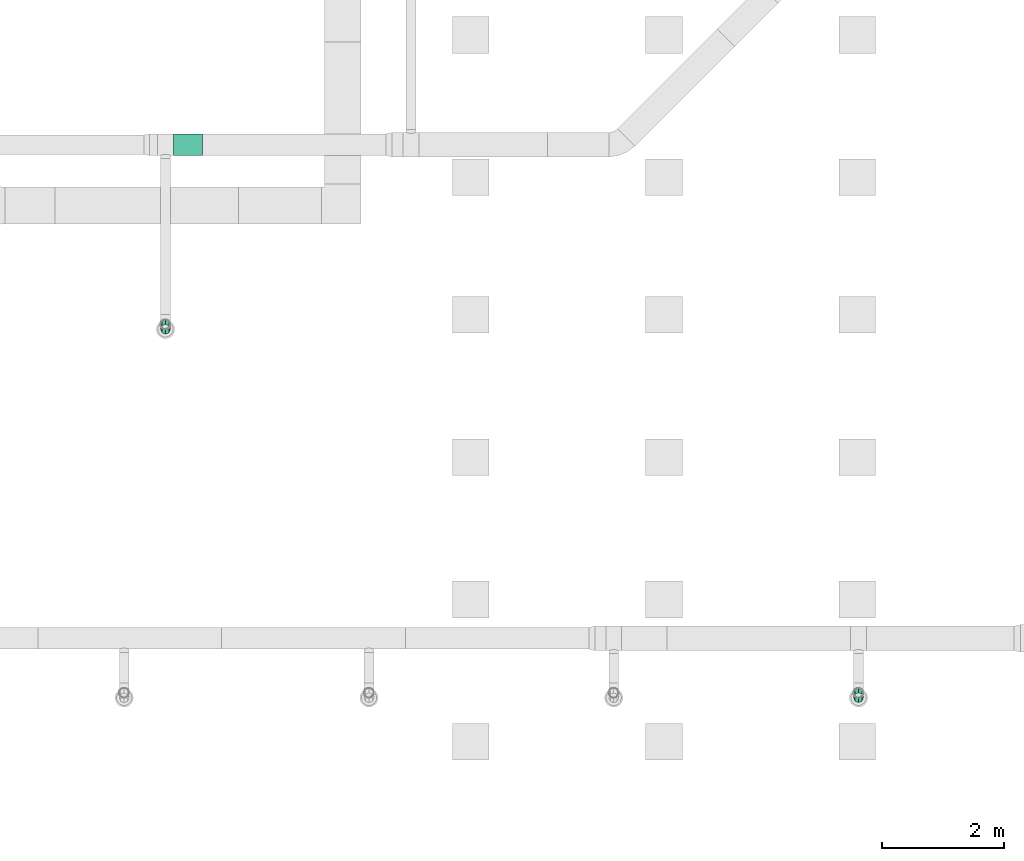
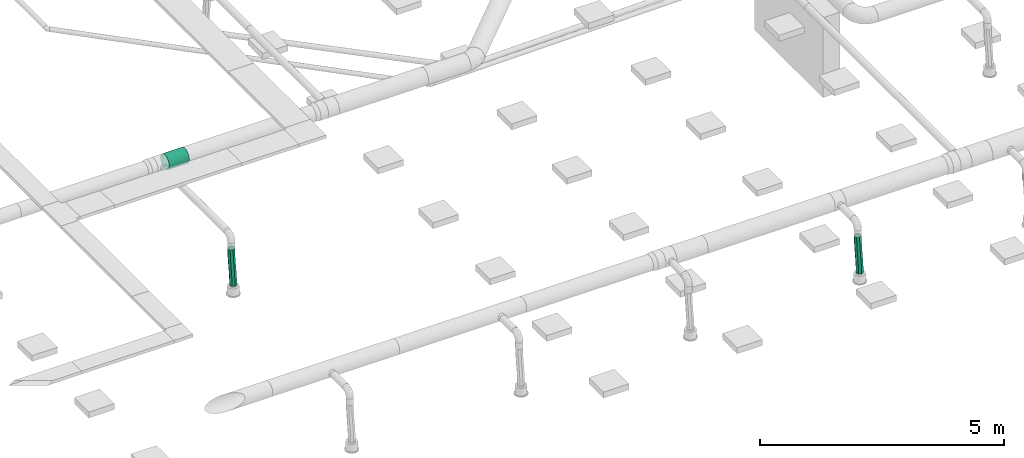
# One storey, part 246 of 374: 3 flow segments.
"""IFC2X3 building model written with IfcOpenShell, lengths in metres."""

import ifcopenshell
import ifcopenshell.guid

model = None  # the IFC model being written
_history = None  # IfcOwnerHistory: only IFC2X3 demands one
_inside = {}  # id of a spatial element -> (the spatial element, [elements in it])
_under = {}  # id of a project, library or spatial element -> (it, [spatial elements below it])
_declared = {}  # id of a project -> (the project, [libraries it declares])
_typed = {}  # id of a type object -> (the type object, [elements of that type])
_made_of = {}  # id of a material, layer set ... -> (it, [elements and type objects made of it])


def new_model(schema):
    """Start an empty IFC model of exactly this schema.

    Asked for "IFC4X3", IfcOpenShell would pick the latest addendum, in which some entities
    have other attributes; the version numbers below select the first issue.
    IFC2X3 requires an IfcOwnerHistory on every rooted entity: one is made here for all.
    """
    global model, _history
    if schema == "IFC4X3":
        model = ifcopenshell.file(schema_version=(4, 3, 0, 0))
    else:
        model = ifcopenshell.file(schema=schema)
    _inside.clear()
    _under.clear()
    _declared.clear()
    _typed.clear()
    _made_of.clear()
    _history = None
    if model.schema == "IFC2X3":
        org = make("IfcOrganization", Name="unknown")
        user = make(
            "IfcPersonAndOrganization",
            ThePerson=make("IfcPerson", FamilyName="unknown"),
            TheOrganization=org,
        )
        app = make(
            "IfcApplication",
            ApplicationDeveloper=org,
            Version="unknown",
            ApplicationFullName="unknown",
            ApplicationIdentifier="unknown",
        )
        _history = make(
            "IfcOwnerHistory",
            OwningUser=user,
            OwningApplication=app,
            ChangeAction="ADDED",
            CreationDate=0,
        )
    return model


def make(cls, **values):
    """One entity of the class cls with the attributes given. An attribute that is None is left unset."""
    return model.create_entity(
        cls, **{name: value for name, value in values.items() if value is not None}
    )


def rooted(cls, **values):
    """An entity with a GlobalId (a new one), such as an element, a storey or a relation."""
    return make(cls, GlobalId=ifcopenshell.guid.new(), OwnerHistory=_history, **values)


def si_unit(unit_type, name, prefix=None):
    """IfcSIUnit, for example si_unit("LENGTHUNIT", "METRE", prefix="MILLI")."""
    return make("IfcSIUnit", UnitType=unit_type, Prefix=prefix, Name=name)


def assignment(units):
    """IfcUnitAssignment: the units of a project."""
    return None if units is None else make("IfcUnitAssignment", Units=units)


def point(xyz):
    """IfcCartesianPoint."""
    return None if xyz is None else make("IfcCartesianPoint", Coordinates=xyz)


def direction(xyz):
    """IfcDirection."""
    return None if xyz is None else make("IfcDirection", DirectionRatios=xyz)


def frame(location, z_axis=None, x_axis=None):
    """IfcAxis2Placement3D, a coordinate frame: its origin and axes. An axis left out is left unset."""
    return make(
        "IfcAxis2Placement3D",
        Location=point(location),
        Axis=direction(z_axis),
        RefDirection=direction(x_axis),
    )


def origin():
    """The frame at (0, 0, 0) with its axes left unset."""
    return frame((0.0, 0.0, 0.0))


def place(relative_to, where):
    """IfcLocalPlacement: puts the frame where relative to a parent placement (None: the world)."""
    return make(
        "IfcLocalPlacement", PlacementRelTo=relative_to, RelativePlacement=where
    )


def context(
    kind, dimensions, precision=None, world=None, true_north=None, identifier=None
):
    """IfcGeometricRepresentationContext, for example the 3D "Model" context."""
    return make(
        "IfcGeometricRepresentationContext",
        ContextIdentifier=identifier,
        ContextType=kind,
        CoordinateSpaceDimension=dimensions,
        Precision=precision,
        WorldCoordinateSystem=world,
        TrueNorth=true_north,
    )


def subcontext(parent, identifier, kind, view, scale=None):
    """IfcGeometricRepresentationSubContext, for example "Body" below "Model"."""
    return make(
        "IfcGeometricRepresentationSubContext",
        ContextIdentifier=identifier,
        ContextType=kind,
        ParentContext=parent,
        TargetScale=scale,
        TargetView=view,
    )


def project(units=None, contexts=None):
    """IfcProject with its units and contexts."""
    return rooted(
        "IfcProject",
        Name="project",
        RepresentationContexts=contexts,
        UnitsInContext=assignment(units),
    )


def spatial(cls, under=None, at=None, **own):
    """A site, building, storey or space (cls), placed at a placement, below another one or the project."""
    s = rooted(cls, ObjectPlacement=at, **own)
    if under is not None:
        _under.setdefault(under.id(), (under, []))[1].append(s)
    return s


def faces_of(points, faces, orient=None, outer=None):
    """IfcFace entities. A face is a list of loops; a loop is a list of indices into points, from 0.

    orient and outer hold one flag for each loop. By default every Orientation is true, the
    first loop of a face is its IfcFaceOuterBound and the others are IfcFaceBound.
    """
    made = []
    for i, loops in enumerate(faces):
        bounds = []
        for j, loop in enumerate(loops):
            is_outer = j == 0 if outer is None else outer[i][j]
            bounds.append(
                make(
                    "IfcFaceOuterBound" if is_outer else "IfcFaceBound",
                    Bound=make("IfcPolyLoop", Polygon=[points[k] for k in loop]),
                    Orientation=True if orient is None else orient[i][j],
                )
            )
        made.append(make("IfcFace", Bounds=bounds))
    return made


def open_shell(faces, orient=None, outer=None):
    """The faces of one IfcOpenShell. surface_model builds it on its shared points."""
    return ("IfcOpenShell", faces, orient, outer)


def surface_model(cls, points, shells):
    """IfcFaceBasedSurfaceModel or IfcShellBasedSurfaceModel (cls): surfaces that need not close."""
    shared = [point(p) for p in points]
    made = [make(c, CfsFaces=faces_of(shared, fs, o, b)) for c, fs, o, b in shells]
    if cls == "IfcFaceBasedSurfaceModel":
        return make(cls, FbsmFaces=made)
    return make(cls, SbsmBoundary=made)


def shape(context_of_items, identifier, shape_type, items):
    """IfcShapeRepresentation: the items that make up one representation, for example the "Body"."""
    return make(
        "IfcShapeRepresentation",
        ContextOfItems=context_of_items,
        RepresentationIdentifier=identifier,
        RepresentationType=shape_type,
        Items=items,
    )


def source(mapping_origin, context_of_items, identifier, shape_type, items):
    """IfcRepresentationMap: a shape defined once, which mapped items show again and again."""
    return make(
        "IfcRepresentationMap",
        MappingOrigin=mapping_origin,
        MappedRepresentation=shape(context_of_items, identifier, shape_type, items),
    )


def transform(
    local_origin,
    x_axis=None,
    y_axis=None,
    z_axis=None,
    scale=None,
    scale2=None,
    scale3=None,
    uniform=True,
):
    """IfcCartesianTransformationOperator3D, or its non-uniform kind. x_axis, y_axis, z_axis: its Axis1, 2, 3."""
    if uniform:
        return make(
            "IfcCartesianTransformationOperator3D",
            Axis1=direction(x_axis),
            Axis2=direction(y_axis),
            LocalOrigin=point(local_origin),
            Scale=scale,
            Axis3=direction(z_axis),
        )
    return make(
        "IfcCartesianTransformationOperator3DnonUniform",
        Axis1=direction(x_axis),
        Axis2=direction(y_axis),
        LocalOrigin=point(local_origin),
        Scale=scale,
        Axis3=direction(z_axis),
        Scale2=scale2,
        Scale3=scale3,
    )


def mapped(mapping_source, mapping_target):
    """IfcMappedItem: shows the shape of a source again, moved by a transform."""
    return make(
        "IfcMappedItem", MappingSource=mapping_source, MappingTarget=mapping_target
    )


def made_of(thing, what):
    """Note that an element or type object is made of a material, layer set ...; save() writes the relation."""
    if what is not None:
        _made_of.setdefault(what.id(), (what, []))[1].append(thing)
    return thing


def element(
    cls,
    number,
    at=None,
    inside=None,
    cuts=None,
    type_object=None,
    material=None,
    context=None,
    identifier="Body",
    shape_type=None,
    held_by="IfcProductDefinitionShape",
    body=None,
    shapes=None,
    **own,
):
    """One element of the class cls, such as IfcWall. Its Tag is "e" and its number.

    at: its placement. inside: the storey or other place that contains it. cuts: it is an
    opening in that element (IfcRelVoidsElement). A single representation is given by context,
    identifier, shape_type and body (its items); several are given by shapes. held_by: the class
    of the entity that holds the representations. save() writes the other relations.
    """
    e = rooted(cls, Tag="e%d" % number, ObjectPlacement=at, **own)
    if body is not None:
        shapes = [shape(context, identifier, shape_type, body)]
    if shapes is not None:
        e.Representation = make(held_by, Representations=shapes)
    if inside is not None:
        _inside.setdefault(inside.id(), (inside, []))[1].append(e)
    if cuts is not None:
        rooted(
            "IfcRelVoidsElement", RelatingBuildingElement=cuts, RelatedOpeningElement=e
        )
    if type_object is not None:
        _typed.setdefault(type_object.id(), (type_object, []))[1].append(e)
    return made_of(e, material)


def aggregate(whole, parts):
    """IfcRelAggregates: a whole, such as a stair, and the parts it consists of."""
    return rooted("IfcRelAggregates", RelatingObject=whole, RelatedObjects=parts)


def save(model, path):
    """Write the relations noted so far, then the file.

    IfcRelAggregates (storeys below a building ...), IfcRelContainedInSpatialStructure (elements
    in a storey), IfcRelDefinesByType, IfcRelAssociatesMaterial and IfcRelDeclares: one each for
    every whole, place, type object, material and project.
    """
    for whole, parts in _under.values():
        aggregate(whole, parts)
    for where, things in _inside.values():
        rooted(
            "IfcRelContainedInSpatialStructure",
            RelatedElements=things,
            RelatingStructure=where,
        )
    for kind, things in _typed.values():
        rooted("IfcRelDefinesByType", RelatedObjects=things, RelatingType=kind)
    for what, things in _made_of.values():
        rooted("IfcRelAssociatesMaterial", RelatedObjects=things, RelatingMaterial=what)
    for by, libraries in _declared.values():
        rooted("IfcRelDeclares", RelatingContext=by, RelatedDefinitions=libraries)
    model.write(path)


model = new_model("IFC2X3")

# Units and contexts
model_context = context("Model", 3, precision=1e-05, world=origin(), true_north=direction((-0.4480736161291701, 0.8939966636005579)))
body_context = subcontext(model_context, "Body", "Model", "MODEL_VIEW")
ifc_project = project(units=[si_unit("LENGTHUNIT", "METRE"), si_unit("AREAUNIT", "SQUARE_METRE"), si_unit("VOLUMEUNIT", "CUBIC_METRE"), si_unit("PLANEANGLEUNIT", "RADIAN"), si_unit("THERMODYNAMICTEMPERATUREUNIT", "KELVIN"), si_unit("MASSUNIT", "GRAM", prefix="KILO"), si_unit("TIMEUNIT", "SECOND")], contexts=[model_context])

# Site, building, storey
site_placement = place(None, origin())
site = spatial("IfcSite", under=ifc_project, at=site_placement, Name="Site 1", CompositionType="ELEMENT")
building_placement = place(site_placement, origin())
building = spatial("IfcBuilding", under=site, at=building_placement, Name="Undefined", CompositionType="ELEMENT")
storey_placement = place(building_placement, origin())
storey = spatial("IfcBuildingStorey", under=building, at=storey_placement, Name="Rez de chauss\x8ee", CompositionType="ELEMENT", Elevation=0.0)

# Flow segments
shared_shape_1 = source(origin(), body_context, "Body", "SurfaceModel", [
    surface_model("IfcFaceBasedSurfaceModel", [(0.0, 0.046336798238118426, 0.0), (0.0, 0.0, 0.0), (0.47437066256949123, 0.0, 0.0), (0.47437066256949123, 0.04633679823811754, 0.0), (0.0, -0.044757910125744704, -0.0119928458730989), (0.47437066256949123, -0.04475791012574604, -0.011992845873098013), (0.0, -0.08488675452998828, -0.035161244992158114), (0.47437066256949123, -0.08488675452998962, -0.03516124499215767), (0.0, -0.11765181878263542, -0.06792630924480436), (0.47437066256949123, -0.11765181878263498, -0.06792630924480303), (0.0, -0.1408202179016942, -0.10805515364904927), (0.47437066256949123, -0.14082021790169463, -0.10805515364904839), (0.0, -0.15281306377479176, -0.15281306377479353), (0.47437066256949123, -0.15281306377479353, -0.15281306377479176), (0.0, -0.1528130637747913, -0.19914986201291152), (0.47437066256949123, -0.15281306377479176, -0.19914986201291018), (0.0, -0.14082021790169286, -0.24390777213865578), (0.47437066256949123, -0.14082021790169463, -0.24390777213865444), (0.0, -0.11765181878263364, -0.2840366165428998), (0.47437066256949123, -0.11765181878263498, -0.2840366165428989), (0.0, -0.0848867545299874, -0.31680168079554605), (0.47437066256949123, -0.08488675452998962, -0.31680168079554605), (0.0, -0.044757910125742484, -0.3399700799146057), (0.47437066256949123, -0.04475791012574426, -0.3399700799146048), (0.0, 1.776356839e-15, -0.35196292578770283), (0.47437066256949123, 0.0, -0.35196292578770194), (0.0, 0.0463367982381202, -0.3519629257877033), (0.47437066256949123, 0.046336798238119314, -0.35196292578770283), (0.0, 0.09109470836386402, -0.3399700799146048), (0.47437066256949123, 0.09109470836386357, -0.3399700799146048), (0.0, 0.13122355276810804, -0.31680168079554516), (0.47437066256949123, 0.13122355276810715, -0.31680168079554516), (0.0, 0.16398861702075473, -0.2840366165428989), (0.47437066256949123, 0.16398861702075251, -0.2840366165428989), (0.0, 0.18715701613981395, -0.243907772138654), (0.47437066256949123, 0.18715701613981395, -0.24390777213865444), (0.0, 0.19914986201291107, -0.19914986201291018), (0.47437066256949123, 0.1991498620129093, -0.19914986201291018), (0.0, 0.19914986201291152, -0.15281306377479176), (0.47437066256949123, 0.19914986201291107, -0.15281306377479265), (0.0, 0.18715701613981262, -0.1080551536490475), (0.47437066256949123, 0.18715701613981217, -0.10805515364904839), (0.0, 0.1639886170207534, -0.06792630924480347), (0.47437066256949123, 0.16398861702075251, -0.06792630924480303), (0.0, 0.1312235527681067, -0.03516124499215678), (0.47437066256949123, 0.13122355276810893, -0.03516124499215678), (0.0, 0.09109470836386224, -0.011992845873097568), (0.47437066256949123, 0.09109470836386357, -0.011992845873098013)], [open_shell([[[0, 1, 2, 3]], [[1, 4, 5, 2]], [[4, 6, 7, 5]], [[6, 8, 9, 7]], [[8, 10, 11, 9]], [[10, 12, 13, 11]], [[12, 14, 15, 13]], [[14, 16, 17, 15]], [[16, 18, 19, 17]], [[18, 20, 21, 19]], [[20, 22, 23, 21]], [[22, 24, 25, 23]], [[24, 26, 27, 25]], [[26, 28, 29, 27]], [[28, 30, 31, 29]], [[30, 32, 33, 31]], [[32, 34, 35, 33]], [[34, 36, 37, 35]], [[36, 38, 39, 37]], [[38, 40, 41, 39]], [[40, 42, 43, 41]], [[42, 44, 45, 43]], [[44, 46, 47, 45]], [[46, 0, 3, 47]]])]),
])
flow_segment_1_placement = place(storey_placement, origin())
element("IfcFlowSegment", 1, at=flow_segment_1_placement, inside=storey, Name="Tube", ObjectType="Tube", context=body_context, shape_type="MappedRepresentation", body=[
    mapped(shared_shape_1, transform((31.568995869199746, 10.9651343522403, 3.9714518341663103), x_axis=(-1.0, 0.0, 0.0), y_axis=(7.266545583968e-12, -0.9914448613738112, 0.13052619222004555), z_axis=(0.0, 0.13052619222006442, 0.9914448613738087))),
])
shared_shape_2 = source(origin(), body_context, "Body", "SurfaceModel", [
    surface_model("IfcFaceBasedSurfaceModel", [(0.09591138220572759, 3.552713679e-15, -3.552713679e-15), (0.05777895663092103, 0.04790565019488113, -3.552713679e-15), (0.0, 0.0, 0.0), (0.03990852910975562, -0.04643643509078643, -1.0802411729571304e-06), (-0.05576709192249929, -0.049661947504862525, -0.0010921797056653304), (-0.01440322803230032, -0.09480686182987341, -0.0010661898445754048), (-0.10982704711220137, -0.10061373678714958, -0.0030471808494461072), (-0.06736210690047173, -0.1447244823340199, -0.002982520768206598), (-0.16253987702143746, -0.15244488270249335, -0.005638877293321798), (-0.11930632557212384, -0.19580249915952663, -0.0055372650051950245), (-0.2142613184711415, -0.20475371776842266, -0.008645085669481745), (-0.1705741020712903, -0.24765411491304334, -0.008517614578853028), (-0.26534081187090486, -0.25714539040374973, -0.01184746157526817), (-0.22150365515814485, -0.299892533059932, -0.011710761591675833), (-0.3161204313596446, -0.3092305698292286, -0.015031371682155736), (-0.27243320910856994, -0.3521309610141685, -0.01490390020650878), (-0.3669345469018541, -0.36062498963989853, -0.017985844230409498), (-0.32370098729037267, -0.4039825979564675, -0.01788423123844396), (-0.4181101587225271, -0.4109499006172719, -0.020503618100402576), (-0.37564521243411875, -0.45506064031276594, -0.020438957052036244), (-0.4699679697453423, -0.45983336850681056, -0.022381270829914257), (-0.4286041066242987, -0.5049782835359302, -0.022355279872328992), (-0.5228244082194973, -0.5069122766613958, -0.023419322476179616), (-0.4829158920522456, -0.5533487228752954, -0.023420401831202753), (-0.577051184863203, -0.5518794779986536, -0.023421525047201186), (-0.5389187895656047, -0.5997851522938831, -0.02342152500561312), (0.030535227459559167, 0.08155715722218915, -0.04329420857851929), (-0.027979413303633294, 0.03304293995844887, -0.043293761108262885), (-0.08434932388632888, -0.017153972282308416, -0.044397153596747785), (-0.13886536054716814, -0.06853412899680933, -0.04636817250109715), (-0.19189656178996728, -0.12067723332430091, -0.04897517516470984), (-0.24380592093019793, -0.173175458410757, -0.05199209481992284), (-0.2949475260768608, -0.22563061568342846, -0.05519829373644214), (-0.3456650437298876, -0.277652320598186, -0.058378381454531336), (-0.3962912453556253, -0.32885735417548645, -0.0613221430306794), (-0.44714848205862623, -0.3788703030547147, -0.06382461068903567), (-0.4985501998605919, -0.42732539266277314, -0.06568624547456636), (-0.5508037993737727, -0.4738693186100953, -0.0667130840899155), (-0.6042948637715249, -0.5182279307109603, -0.06671573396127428), (0.030139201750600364, 0.0812419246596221, -0.1045214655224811), (-0.027639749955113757, 0.03333627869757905, -0.10452146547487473), (-0.08340684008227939, -0.016325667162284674, -0.10561364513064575), (-0.13746679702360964, -0.06727745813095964, -0.10756864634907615), (-0.19017963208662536, -0.11910860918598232, -0.11016034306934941), (-0.24190108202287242, -0.17141745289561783, -0.11316655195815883), (-0.29298058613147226, -0.22380913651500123, -0.11636892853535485), (-0.34376021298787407, -0.2758943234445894, -0.11955283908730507), (-0.39457432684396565, -0.3272887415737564, -0.12250731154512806), (-0.4457499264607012, -0.3776136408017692, -0.12502508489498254), (-0.4976077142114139, -0.4264970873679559, -0.1269027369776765), (-0.5504641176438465, -0.4735759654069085, -0.12794078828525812), (-0.6046908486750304, -0.5185431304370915, -0.1279429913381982), (0.05682286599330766, 0.04714461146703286, -0.1478156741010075), (0.0008200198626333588, 0.0007081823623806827, -0.14781675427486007), (-0.05349173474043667, -0.04766224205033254, -0.14888186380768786), (-0.10645061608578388, -0.09757986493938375, -0.1507981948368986), (-0.1583948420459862, -0.14865788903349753, -0.15335293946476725), (-0.20966263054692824, -0.20050951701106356, -0.15633328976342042), (-0.2605921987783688, -0.2527479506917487, -0.15952643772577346), (-0.31152176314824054, -0.3049863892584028, -0.16271957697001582), (-0.3627895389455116, -0.35683802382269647, -0.16569990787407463), (-0.41473374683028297, -0.4079160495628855, -0.16825463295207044), (-0.46769260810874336, -0.4578336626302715, -0.17017095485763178), (-0.522004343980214, -0.5062040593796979, -0.17123607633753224), (-0.5780071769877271, -0.5526404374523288, -0.17123720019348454), (0.09495529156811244, -0.0007610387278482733, -0.14781567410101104), (0.04072854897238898, -0.0457282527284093, -0.14781783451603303), (-0.012127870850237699, -0.09280715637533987, -0.1488558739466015), (-0.06398567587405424, -0.14169061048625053, -0.1507335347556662), (-0.11516129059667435, -0.19201550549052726, -0.15325132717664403), (-0.16597541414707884, -0.2434099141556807, -0.1562058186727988), (-0.21675504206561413, -0.295495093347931, -0.15938973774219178), (-0.2678345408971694, -0.34788678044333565, -0.16259210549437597), (-0.31955597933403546, -0.40019563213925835, -0.16559829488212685), (-0.37226880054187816, -0.452026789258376, -0.1681899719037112), (-0.42632874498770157, -0.502978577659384, -0.17014496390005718), (-0.48209582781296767, -0.5526405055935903, -0.1712371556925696), (-0.5398747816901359, -0.6005461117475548, -0.17123720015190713), (0.12219902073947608, -0.03441254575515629, -0.1045214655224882), (0.06870796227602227, -0.07877119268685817, -0.10452407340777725), (0.016454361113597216, -0.12531513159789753, -0.10555090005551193), (-0.03494736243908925, -0.17377021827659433, -0.10741254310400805), (-0.08580460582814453, -0.22378315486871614, -0.10991502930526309), (-0.13643081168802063, -0.2749881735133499, -0.11285880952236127), (-0.1871483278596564, -0.3270098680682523, -0.11603890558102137), (-0.23828992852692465, -0.37946502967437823, -0.11924509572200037), (-0.2901992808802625, -0.431963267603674, -0.1222619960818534), (-0.34323047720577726, -0.4841063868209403, -0.12486897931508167), (-0.3977465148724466, -0.535486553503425, -0.12683998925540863), (-0.4541164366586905, -0.585683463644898, -0.1279433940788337), (-0.5126311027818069, -0.6341976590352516, -0.12794299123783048), (0.12259504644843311, -0.03409731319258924, -0.0432942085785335), (0.06836829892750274, -0.07906453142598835, -0.0432963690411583), (0.015511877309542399, -0.12614343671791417, -0.044334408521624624), (-0.036345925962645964, -0.17502688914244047, -0.046212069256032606), (-0.08752153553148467, -0.2253517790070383, -0.04872986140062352), (-0.13833565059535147, -0.276746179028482, -0.051684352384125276), (-0.18911526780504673, -0.32883134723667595, -0.05486827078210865), (-0.24019475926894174, -0.38122302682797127, -0.05807063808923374), (-0.2919161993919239, -0.43353188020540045, -0.061076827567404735), (-0.3446290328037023, -0.4853630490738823, -0.06366850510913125), (-0.3986890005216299, -0.5363148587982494, -0.06562349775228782), (-0.45445611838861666, -0.5859768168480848, -0.06671568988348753), (-0.5122351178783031, -0.6338824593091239, -0.06671573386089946)], [open_shell([[[0, 1, 2]], [[2, 3, 0]], [[3, 2, 4]], [[4, 5, 3]], [[5, 4, 6]], [[6, 7, 5]], [[7, 6, 8]], [[8, 9, 7]], [[9, 8, 10]], [[10, 11, 9]], [[11, 10, 12]], [[12, 13, 11]], [[13, 12, 14]], [[14, 15, 13]], [[15, 14, 16]], [[16, 17, 15]], [[17, 16, 18]], [[18, 19, 17]], [[19, 18, 20]], [[20, 21, 19]], [[21, 20, 22]], [[22, 23, 21]], [[23, 22, 24]], [[24, 25, 23]], [[1, 26, 27]], [[27, 2, 1]], [[2, 27, 28]], [[28, 4, 2]], [[4, 28, 29]], [[29, 6, 4]], [[6, 29, 30]], [[30, 8, 6]], [[8, 30, 31]], [[31, 10, 8]], [[10, 31, 32]], [[32, 12, 10]], [[12, 32, 33]], [[33, 14, 12]], [[14, 33, 34]], [[34, 16, 14]], [[16, 34, 35]], [[35, 18, 16]], [[18, 35, 36]], [[36, 20, 18]], [[20, 36, 37]], [[37, 22, 20]], [[22, 37, 38]], [[38, 24, 22]], [[26, 39, 40]], [[40, 27, 26]], [[27, 40, 41]], [[41, 28, 27]], [[28, 41, 42]], [[42, 29, 28]], [[29, 42, 43]], [[43, 30, 29]], [[30, 43, 44]], [[44, 31, 30]], [[31, 44, 45]], [[45, 32, 31]], [[32, 45, 46]], [[46, 33, 32]], [[33, 46, 47]], [[47, 34, 33]], [[34, 47, 48]], [[48, 35, 34]], [[35, 48, 49]], [[49, 36, 35]], [[36, 49, 50]], [[50, 37, 36]], [[37, 50, 51]], [[51, 38, 37]], [[39, 52, 53]], [[53, 40, 39]], [[40, 53, 54]], [[54, 41, 40]], [[41, 54, 55]], [[55, 42, 41]], [[42, 55, 56]], [[56, 43, 42]], [[43, 56, 57]], [[57, 44, 43]], [[44, 57, 58]], [[58, 45, 44]], [[45, 58, 59]], [[59, 46, 45]], [[46, 59, 60]], [[60, 47, 46]], [[47, 60, 61]], [[61, 48, 47]], [[48, 61, 62]], [[62, 49, 48]], [[49, 62, 63]], [[63, 50, 49]], [[50, 63, 64]], [[64, 51, 50]], [[52, 65, 66]], [[66, 53, 52]], [[53, 66, 67]], [[67, 54, 53]], [[54, 67, 68]], [[68, 55, 54]], [[55, 68, 69]], [[69, 56, 55]], [[56, 69, 70]], [[70, 57, 56]], [[57, 70, 71]], [[71, 58, 57]], [[58, 71, 72]], [[72, 59, 58]], [[59, 72, 73]], [[73, 60, 59]], [[60, 73, 74]], [[74, 61, 60]], [[61, 74, 75]], [[75, 62, 61]], [[62, 75, 76]], [[76, 63, 62]], [[63, 76, 77]], [[77, 64, 63]], [[65, 78, 79]], [[79, 66, 65]], [[66, 79, 80]], [[80, 67, 66]], [[67, 80, 81]], [[81, 68, 67]], [[68, 81, 82]], [[82, 69, 68]], [[69, 82, 83]], [[83, 70, 69]], [[70, 83, 84]], [[84, 71, 70]], [[71, 84, 85]], [[85, 72, 71]], [[72, 85, 86]], [[86, 73, 72]], [[73, 86, 87]], [[87, 74, 73]], [[74, 87, 88]], [[88, 75, 74]], [[75, 88, 89]], [[89, 76, 75]], [[76, 89, 90]], [[90, 77, 76]], [[78, 91, 92]], [[92, 79, 78]], [[79, 92, 93]], [[93, 80, 79]], [[80, 93, 94]], [[94, 81, 80]], [[81, 94, 95]], [[95, 82, 81]], [[82, 95, 96]], [[96, 83, 82]], [[83, 96, 97]], [[97, 84, 83]], [[84, 97, 98]], [[98, 85, 84]], [[85, 98, 99]], [[99, 86, 85]], [[86, 99, 100]], [[100, 87, 86]], [[87, 100, 101]], [[101, 88, 87]], [[88, 101, 102]], [[102, 89, 88]], [[89, 102, 103]], [[103, 90, 89]], [[91, 0, 3]], [[3, 92, 91]], [[92, 3, 5]], [[5, 93, 92]], [[93, 5, 7]], [[7, 94, 93]], [[94, 7, 9]], [[9, 95, 94]], [[95, 9, 11]], [[11, 96, 95]], [[96, 11, 13]], [[13, 97, 96]], [[97, 13, 15]], [[15, 98, 97]], [[98, 15, 17]], [[17, 99, 98]], [[99, 17, 19]], [[19, 100, 99]], [[100, 19, 21]], [[21, 101, 100]], [[101, 21, 23]], [[23, 102, 101]], [[102, 23, 25]], [[25, 103, 102]]])]),
])
flow_segment_2_placement = place(storey_placement, origin())
element("IfcFlowSegment", 2, at=flow_segment_2_placement, inside=storey, Name="Tube flexible", ObjectType="Tube flexible", context=body_context, shape_type="MappedRepresentation", body=[
    mapped(shared_shape_2, transform((30.908056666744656, 8.036558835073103, 3.4049618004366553), x_axis=(-0.24430322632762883, -0.5728987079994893, 0.7823701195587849), y_axis=(0.29465382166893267, 0.7248106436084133, 0.622758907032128), z_axis=(-0.9238479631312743, 0.3826703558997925, -0.008266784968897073))),
])
shared_shape_3 = source(origin(), body_context, "Body", "SurfaceModel", [
    surface_model("IfcFaceBasedSurfaceModel", [(0.09591138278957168, -3.552713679e-15, 0.0), (0.05777895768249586, 0.04790565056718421, 0.0), (0.0, 0.0, 0.0), (0.03990852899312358, -0.04643643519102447, -1.0802535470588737e-06), (-0.05576709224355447, -0.04966194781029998, -0.0010921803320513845), (-0.01440322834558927, -0.09480686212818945, -0.0010661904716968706), (-0.10982704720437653, -0.10061373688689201, -0.0030471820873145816), (-0.06736210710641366, -0.14472448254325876, -0.00298252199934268), (-0.16253987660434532, -0.15244488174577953, -0.00563887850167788), (-0.11930632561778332, -0.19580249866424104, -0.00553726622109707), (-0.21426131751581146, -0.20475371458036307, -0.008645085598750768), (-0.17057410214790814, -0.2476541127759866, -0.008517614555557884), (-0.26534081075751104, -0.25714538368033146, -0.011847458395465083), (-0.22150365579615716, -0.2998925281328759, -0.011710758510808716), (-0.31612043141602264, -0.30923055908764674, -0.01503136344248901), (-0.27243321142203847, -0.3521309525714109, -0.014903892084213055), (-0.36693454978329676, -0.360624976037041, -0.017985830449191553), (-0.32370099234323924, -0.40398258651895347, -0.017884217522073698), (-0.41811016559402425, -0.4109498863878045, -0.02050360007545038), (-0.3756452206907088, -0.45506062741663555, -0.020438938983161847), (-0.4699679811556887, -0.4598333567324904, -0.02238125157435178), (-0.42860411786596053, -0.5049782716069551, -0.022355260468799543), (-0.5228244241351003, -0.5069122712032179, -0.02341930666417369), (-0.48291590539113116, -0.5533487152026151, -0.023420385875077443), (-0.5770512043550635, -0.5518794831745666, -0.02342151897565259), (-0.5389188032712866, -0.5997851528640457, -0.023421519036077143), (0.030535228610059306, 0.08155715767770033, -0.043294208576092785), (-0.027979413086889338, 0.03304294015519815, -0.04329376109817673), (-0.08434932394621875, -0.01715397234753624, -0.04439715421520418), (-0.1388653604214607, -0.06853412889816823, -0.046368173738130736), (-0.1918965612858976, -0.12067723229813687, -0.048975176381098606), (-0.24380592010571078, -0.17317545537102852, -0.05199209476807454), (-0.29494752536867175, -0.22563060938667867, -0.055198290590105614), (-0.3456650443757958, -0.2776523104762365, -0.0583783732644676), (-0.396291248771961, -0.32885734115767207, -0.06132212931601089), (-0.4471484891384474, -0.3788702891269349, -0.06382459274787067), (-0.49855021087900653, -0.42732538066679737, -0.06568622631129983), (-0.5508038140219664, -0.4738693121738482, -0.06671306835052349), (-0.6042948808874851, -0.5182279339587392, -0.06671572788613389), (0.030139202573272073, 0.08124192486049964, -0.10452146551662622), (-0.02763974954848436, 0.03333627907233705, -0.10452146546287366), (-0.08340683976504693, -0.016325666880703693, -0.10561364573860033), (-0.1374667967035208, -0.06727745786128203, -0.1075686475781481), (-0.19017963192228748, -0.11910860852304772, -0.11016034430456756), (-0.24190108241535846, -0.17141745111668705, -0.11316655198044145), (-0.2929805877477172, -0.22380913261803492, -0.1163689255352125), (-0.3437602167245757, -0.27589431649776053, -0.11955283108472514), (-0.3945743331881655, -0.32728873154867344, -0.12250729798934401), (-0.4457499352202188, -0.37761362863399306, -0.12502506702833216), (-0.49760772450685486, -0.4264970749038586, -0.12690271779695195), (-0.550464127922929, -0.4735759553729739, -0.12794077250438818), (-0.6046908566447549, -0.5185431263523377, -0.12794298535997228), (0.056822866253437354, 0.047144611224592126, -0.147815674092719), (0.0008200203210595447, 0.0007081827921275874, -0.1478167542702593), (-0.05349173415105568, -0.047662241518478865, -0.14888186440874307), (-0.10645061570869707, -0.09757986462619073, -0.15079819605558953), (-0.15839484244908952, -0.14865788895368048, -0.1533529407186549), (-0.20966263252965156, -0.20050951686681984, -0.15633328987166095), (-0.26059220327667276, -0.25274794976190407, -0.15952643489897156), (-0.31152177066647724, -0.30498638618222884, -0.1627195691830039), (-0.36278954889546, -0.35683801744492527, -0.16569989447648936), (-0.4147337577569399, -0.40791603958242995, -0.16825461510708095), (-0.46769261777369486, -0.4578336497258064, -0.17017093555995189), (-0.5220043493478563, -0.5062040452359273, -0.1712360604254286), (-0.5780071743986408, -0.5526404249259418, -0.17123719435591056), (0.09495529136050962, -0.0007610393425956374, -0.1478156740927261), (0.04072854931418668, -0.04572825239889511, -0.14781783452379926), (-0.012127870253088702, -0.09280715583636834, -0.14885587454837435), (-0.06398567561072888, -0.1416906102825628, -0.1507335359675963), (-0.11516129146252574, -0.1920155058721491, -0.15325132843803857), (-0.1659754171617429, -0.2434099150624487, -0.15620581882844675), (-0.21675504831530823, -0.29549509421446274, -0.15938973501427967), (-0.26783455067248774, -0.3478867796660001, -0.16259209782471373), (-0.3195559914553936, -0.4001956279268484, -0.16559828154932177), (-0.37226881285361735, -0.4520267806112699, -0.168189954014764), (-0.426328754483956, -0.50297856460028, -0.17014494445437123), (-0.48209583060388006, -0.5526404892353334, -0.17123713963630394), (-0.5398747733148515, -0.6005460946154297, -0.1712371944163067), (0.12219902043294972, -0.03441254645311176, -0.10452146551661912), (0.0687079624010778, -0.07877119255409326, -0.10452407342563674), (0.016454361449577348, -0.12531513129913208, -0.10555090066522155), (-0.03494736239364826, -0.17377021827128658, -0.10741254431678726), (-0.08580460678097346, -0.22378315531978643, -0.10991503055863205), (-0.13643081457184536, -0.2749881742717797, -0.11285880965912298), (-0.18714833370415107, -0.3270098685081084, -0.11603890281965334), (-0.23828993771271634, -0.3794650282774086, -0.11924508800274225), (-0.2901992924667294, -0.43196326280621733, -0.12226198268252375), (-0.3432304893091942, -0.4841063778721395, -0.12486896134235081), (-0.39774652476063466, -0.5354865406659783, -0.12683996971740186), (-0.45411644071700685, -0.5856834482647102, -0.12794337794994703), (-0.5126310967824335, -0.6341976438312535, -0.12794298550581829), (0.1225950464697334, -0.034097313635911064, -0.04329420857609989), (0.06836829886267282, -0.07906453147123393, -0.04329636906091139), (0.015511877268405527, -0.12614343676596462, -0.04433440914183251), (-0.0363459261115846, -0.17502688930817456, -0.04621207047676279), (-0.08752153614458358, -0.22535177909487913, -0.04872986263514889), (-0.13833565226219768, -0.27674617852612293, -0.051684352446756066), (-0.18911527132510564, -0.32883134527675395, -0.054868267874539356), (-0.24019476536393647, -0.3812230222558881, -0.058070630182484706), (-0.2919162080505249, -0.43353187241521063, -0.06107681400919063), (-0.34462904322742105, -0.4853630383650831, -0.06366848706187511), (-0.39868901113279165, -0.53631484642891, -0.06562347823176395), (-0.45445612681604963, -0.5859768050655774, -0.06671567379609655), (-0.5122351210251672, -0.6338824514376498, -0.06671572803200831)], [open_shell([[[0, 1, 2]], [[2, 3, 0]], [[3, 2, 4]], [[4, 5, 3]], [[5, 4, 6]], [[6, 7, 5]], [[7, 6, 8]], [[8, 9, 7]], [[9, 8, 10]], [[10, 11, 9]], [[11, 10, 12]], [[12, 13, 11]], [[13, 12, 14]], [[14, 15, 13]], [[15, 14, 16]], [[16, 17, 15]], [[17, 16, 18]], [[18, 19, 17]], [[19, 18, 20]], [[20, 21, 19]], [[21, 20, 22]], [[22, 23, 21]], [[23, 22, 24]], [[24, 25, 23]], [[1, 26, 27]], [[27, 2, 1]], [[2, 27, 28]], [[28, 4, 2]], [[4, 28, 29]], [[29, 6, 4]], [[6, 29, 30]], [[30, 8, 6]], [[8, 30, 31]], [[31, 10, 8]], [[10, 31, 32]], [[32, 12, 10]], [[12, 32, 33]], [[33, 14, 12]], [[14, 33, 34]], [[34, 16, 14]], [[16, 34, 35]], [[35, 18, 16]], [[18, 35, 36]], [[36, 20, 18]], [[20, 36, 37]], [[37, 22, 20]], [[22, 37, 38]], [[38, 24, 22]], [[26, 39, 40]], [[40, 27, 26]], [[27, 40, 41]], [[41, 28, 27]], [[28, 41, 42]], [[42, 29, 28]], [[29, 42, 43]], [[43, 30, 29]], [[30, 43, 44]], [[44, 31, 30]], [[31, 44, 45]], [[45, 32, 31]], [[32, 45, 46]], [[46, 33, 32]], [[33, 46, 47]], [[47, 34, 33]], [[34, 47, 48]], [[48, 35, 34]], [[35, 48, 49]], [[49, 36, 35]], [[36, 49, 50]], [[50, 37, 36]], [[37, 50, 51]], [[51, 38, 37]], [[39, 52, 53]], [[53, 40, 39]], [[40, 53, 54]], [[54, 41, 40]], [[41, 54, 55]], [[55, 42, 41]], [[42, 55, 56]], [[56, 43, 42]], [[43, 56, 57]], [[57, 44, 43]], [[44, 57, 58]], [[58, 45, 44]], [[45, 58, 59]], [[59, 46, 45]], [[46, 59, 60]], [[60, 47, 46]], [[47, 60, 61]], [[61, 48, 47]], [[48, 61, 62]], [[62, 49, 48]], [[49, 62, 63]], [[63, 50, 49]], [[50, 63, 64]], [[64, 51, 50]], [[52, 65, 66]], [[66, 53, 52]], [[53, 66, 67]], [[67, 54, 53]], [[54, 67, 68]], [[68, 55, 54]], [[55, 68, 69]], [[69, 56, 55]], [[56, 69, 70]], [[70, 57, 56]], [[57, 70, 71]], [[71, 58, 57]], [[58, 71, 72]], [[72, 59, 58]], [[59, 72, 73]], [[73, 60, 59]], [[60, 73, 74]], [[74, 61, 60]], [[61, 74, 75]], [[75, 62, 61]], [[62, 75, 76]], [[76, 63, 62]], [[63, 76, 77]], [[77, 64, 63]], [[65, 78, 79]], [[79, 66, 65]], [[66, 79, 80]], [[80, 67, 66]], [[67, 80, 81]], [[81, 68, 67]], [[68, 81, 82]], [[82, 69, 68]], [[69, 82, 83]], [[83, 70, 69]], [[70, 83, 84]], [[84, 71, 70]], [[71, 84, 85]], [[85, 72, 71]], [[72, 85, 86]], [[86, 73, 72]], [[73, 86, 87]], [[87, 74, 73]], [[74, 87, 88]], [[88, 75, 74]], [[75, 88, 89]], [[89, 76, 75]], [[76, 89, 90]], [[90, 77, 76]], [[78, 91, 92]], [[92, 79, 78]], [[79, 92, 93]], [[93, 80, 79]], [[80, 93, 94]], [[94, 81, 80]], [[81, 94, 95]], [[95, 82, 81]], [[82, 95, 96]], [[96, 83, 82]], [[83, 96, 97]], [[97, 84, 83]], [[84, 97, 98]], [[98, 85, 84]], [[85, 98, 99]], [[99, 86, 85]], [[86, 99, 100]], [[100, 87, 86]], [[87, 100, 101]], [[101, 88, 87]], [[88, 101, 102]], [[102, 89, 88]], [[89, 102, 103]], [[103, 90, 89]], [[91, 0, 3]], [[3, 92, 91]], [[92, 3, 5]], [[5, 93, 92]], [[93, 5, 7]], [[7, 94, 93]], [[94, 7, 9]], [[9, 95, 94]], [[95, 9, 11]], [[11, 96, 95]], [[96, 11, 13]], [[13, 97, 96]], [[97, 13, 15]], [[15, 98, 97]], [[98, 15, 17]], [[17, 99, 98]], [[99, 17, 19]], [[19, 100, 99]], [[100, 19, 21]], [[21, 101, 100]], [[101, 21, 23]], [[23, 102, 101]], [[102, 23, 25]], [[25, 103, 102]]])]),
])
flow_segment_3_placement = place(storey_placement, origin())
element("IfcFlowSegment", 3, at=flow_segment_3_placement, inside=storey, Name="Tube flexible", ObjectType="Tube flexible", context=body_context, shape_type="MappedRepresentation", body=[
    mapped(shared_shape_3, transform((42.233432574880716, 2.0149472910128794, 3.404961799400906), x_axis=(-0.24430322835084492, -0.5728986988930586, 0.7823701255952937), y_axis=(0.29465382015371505, 0.7248106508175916, 0.6227588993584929), z_axis=(-0.9238479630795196, 0.3826703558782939, -0.008266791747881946))),
])

save(model, "model.ifc")
